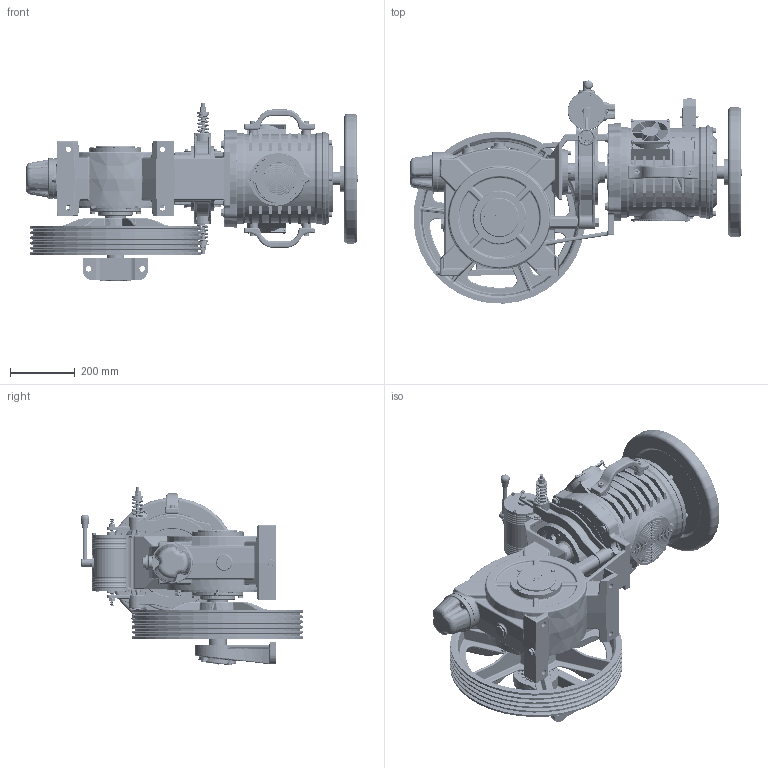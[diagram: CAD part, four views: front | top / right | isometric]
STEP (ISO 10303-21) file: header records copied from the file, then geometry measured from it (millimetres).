
FILE_DESCRIPTION (( 'STEP AP214' ), '1' );
FILE_NAME ('ELTC5505021.STEP', '2026-01-19T14:12:24', ( '' ), ( '' ), 'SwSTEP 2.0', 'SolidWorks 2023', '' );
FILE_SCHEMA (( 'AUTOMOTIVE_DESIGN' ));
Length unit declared in the file: millimetre
Products named in the file (1): ELTC5505021
Bounding box: 1022.68 x 686.9 x 549.43 mm (x, y, z)
Volume: 51013244.4 mm3; surface area: 5153147.1 mm2
Topology: 179 solids, 190 shells, 9926 faces, 24755 edges, 15221 vertices
Faces by surface type: cylinder 3516, plane 2810, bspline 1291, cone 1085, torus 993, sphere 231
Entity records: 555920 total; most frequent: CARTESIAN_POINT 333681, ORIENTED_EDGE 48918, DIRECTION 43132, EDGE_CURVE 24459, AXIS2_PLACEMENT_3D 17048, VERTEX_POINT 15209, EDGE_LOOP 10840, FACE_OUTER_BOUND 9926
